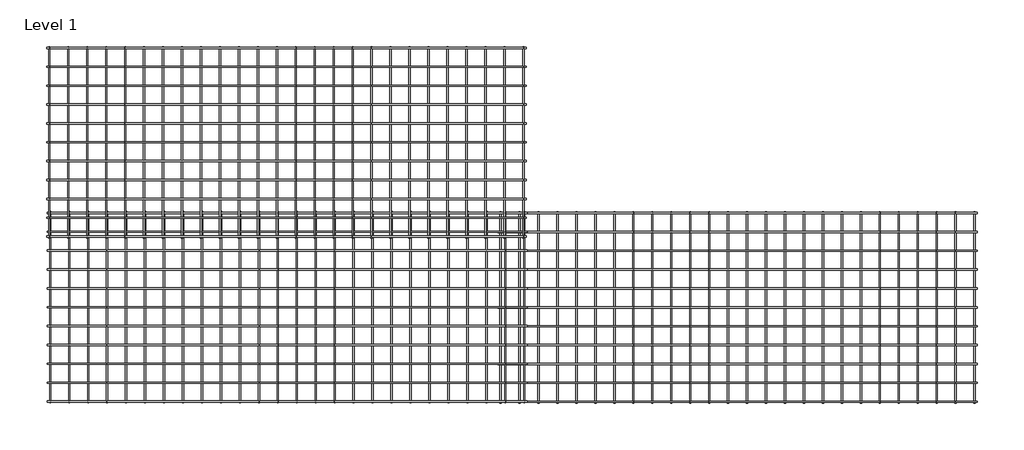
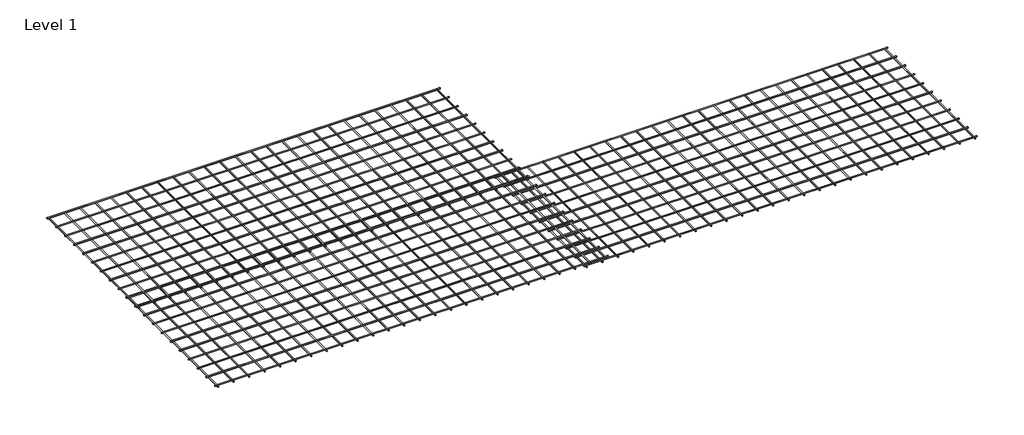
# One storey: 3 proxies.
"""IFC4 building model written with IfcOpenShell, lengths in millimetres."""

from ifc_helpers import new_model, si_unit, origin, place, context, project, spatial, transform, mapped, element, save
from components import united_steel_ductile_se72_large_mesh_united_steel_ductile_2a34dac6

model = new_model("IFC4")

# Units and contexts
model_context = context("Model", 3, world=origin())
ifc_project = project(units=[si_unit("LENGTHUNIT", "METRE", prefix="MILLI")], contexts=[model_context])

# Site, building, storey
site = spatial("IfcSite", under=ifc_project)
building = spatial("IfcBuilding", under=site)
storey = spatial("IfcBuildingStorey", under=building, Name="Level 1", Elevation=0.0)

# Proxies
placement = place(None, origin())
united_steel_ductile_se72_large_mesh_united_steel_ductile_shape = united_steel_ductile_se72_large_mesh_united_steel_ductile_2a34dac6(model_context)
element("IfcBuildingElementProxy", 1, Name="United Steel Ductile SE72 Large Mesh : United Steel Ductile SE72 Large Mesh", ObjectType="United Steel Ductile SE72 Large Mesh : United Steel Ductile SE72 Large Mesh", at=placement, inside=storey, context=model_context, shape_type="MappedRepresentation", body=[
    mapped(united_steel_ductile_se72_large_mesh_united_steel_ductile_shape, transform((6466.2856589, 2144.0592499, 76.875), x_axis=(1.0, 0.0, 0.0), y_axis=(0.0, 1.0, 0.0), z_axis=(0.0, 0.0, 1.0))),
])
element("IfcBuildingElementProxy", 2, Name="United Steel Ductile SE72 Large Mesh : United Steel Ductile SE72 Large Mesh", ObjectType="United Steel Ductile SE72 Large Mesh : United Steel Ductile SE72 Large Mesh", at=placement, inside=storey, context=model_context, shape_type="MappedRepresentation", body=[
    mapped(united_steel_ductile_se72_large_mesh_united_steel_ductile_shape, transform((6456.2856589, 3884.0592499, 105.0), x_axis=(1.0, 0.0, 0.0), y_axis=(0.0, 1.0, 0.0), z_axis=(0.0, 0.0, 1.0))),
])
element("IfcBuildingElementProxy", 3, Name="United Steel Ductile SE72 Large Mesh : United Steel Ductile SE72 Large Mesh", ObjectType="United Steel Ductile SE72 Large Mesh : United Steel Ductile SE72 Large Mesh", at=placement, inside=storey, context=model_context, shape_type="MappedRepresentation", body=[
    mapped(united_steel_ductile_se72_large_mesh_united_steel_ductile_shape, transform((11216.9631143, 2142.5757703, 48.75), x_axis=(1.0, 0.0, 0.0), y_axis=(0.0, 1.0, 0.0), z_axis=(0.0, 0.0, 1.0))),
])

save(model, "model.ifc")
